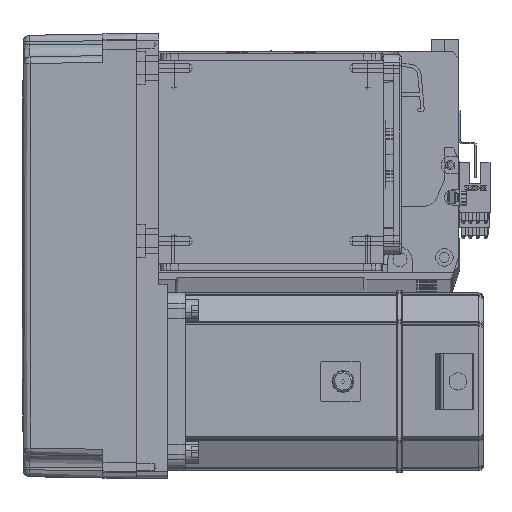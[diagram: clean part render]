
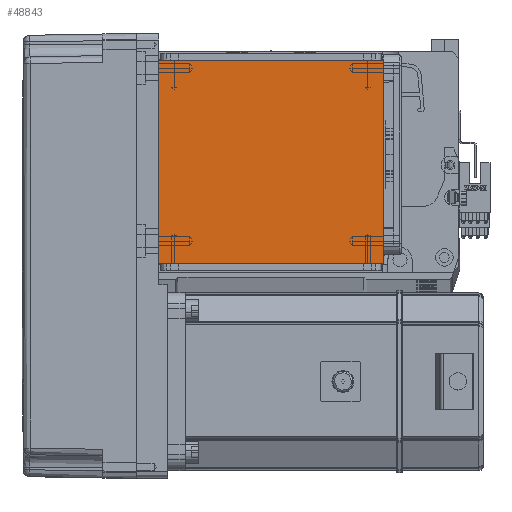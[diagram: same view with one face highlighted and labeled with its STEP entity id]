
A CAD part, top view. The second image highlights one B-rep face of the part: STEP entity #48843.
In plain terms, the highlighted planar face has unit normal (0, 0, 1).
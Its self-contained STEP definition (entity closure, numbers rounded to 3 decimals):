
#133 = ORIENTED_EDGE ( 'NONE', *, *, #40020, .T. ) ;
#472 = ORIENTED_EDGE ( 'NONE', *, *, #65938, .F. ) ;
#779 = LINE ( 'NONE', #33880, #69732 ) ;
#1205 = DIRECTION ( 'NONE',  ( 0., 0., 1. ) ) ;
#6599 = DIRECTION ( 'NONE',  ( 1., 0., 0. ) ) ;
#6777 = CARTESIAN_POINT ( 'NONE',  ( -50.5, 122., 115. ) ) ;
#7627 = VERTEX_POINT ( 'NONE', #53876 ) ;
#8388 = CARTESIAN_POINT ( 'NONE',  ( 50.5, 20., 115. ) ) ;
#9091 = ORIENTED_EDGE ( 'NONE', *, *, #65130, .F. ) ;
#10554 = CARTESIAN_POINT ( 'NONE',  ( -50.5, 20., 115. ) ) ;
#14868 = VECTOR ( 'NONE', #20159, 1000. ) ;
#20159 = DIRECTION ( 'NONE',  ( 1., 0., 0. ) ) ;
#20741 = VECTOR ( 'NONE', #51389, 1000. ) ;
#21105 = CARTESIAN_POINT ( 'NONE',  ( -70.004, 111.5, 115. ) ) ;
#22789 = PLANE ( 'NONE',  #31029 ) ;
#30082 = CARTESIAN_POINT ( 'NONE',  ( 50.5, 111.5, 115. ) ) ;
#31029 = AXIS2_PLACEMENT_3D ( 'NONE', #33787, #1205, #6599 ) ;
#33787 = CARTESIAN_POINT ( 'NONE',  ( 0., 0., 115. ) ) ;
#33880 = CARTESIAN_POINT ( 'NONE',  ( 50.5, 122., 115. ) ) ;
#35284 = LINE ( 'NONE', #40634, #20741 ) ;
#35737 = VERTEX_POINT ( 'NONE', #30082 ) ;
#40020 = EDGE_CURVE ( 'NONE', #7627, #53549, #55623, .T. ) ;
#40634 = CARTESIAN_POINT ( 'NONE',  ( -70.004, 20., 115. ) ) ;
#44860 = LINE ( 'NONE', #21105, #14868 ) ;
#44921 = DIRECTION ( 'NONE',  ( 0., 1., 0. ) ) ;
#45717 = VERTEX_POINT ( 'NONE', #8388 ) ;
#47987 = VECTOR ( 'NONE', #61365, 1000. ) ;
#48843 = ADVANCED_FACE ( 'NONE', ( #59350 ), #22789, .T. ) ;
#51389 = DIRECTION ( 'NONE',  ( -1., 0., 0. ) ) ;
#53549 = VERTEX_POINT ( 'NONE', #10554 ) ;
#53876 = CARTESIAN_POINT ( 'NONE',  ( -50.5, 111.5, 115. ) ) ;
#54563 = ORIENTED_EDGE ( 'NONE', *, *, #69682, .T. ) ;
#55623 = LINE ( 'NONE', #6777, #47987 ) ;
#59350 = FACE_OUTER_BOUND ( 'NONE', #66447, .T. ) ;
#61365 = DIRECTION ( 'NONE',  ( 0., -1., 0. ) ) ;
#65130 = EDGE_CURVE ( 'NONE', #7627, #35737, #44860, .T. ) ;
#65938 = EDGE_CURVE ( 'NONE', #45717, #53549, #35284, .T. ) ;
#66447 = EDGE_LOOP ( 'NONE', ( #9091, #133, #472, #54563 ) ) ;
#69682 = EDGE_CURVE ( 'NONE', #45717, #35737, #779, .T. ) ;
#69732 = VECTOR ( 'NONE', #44921, 1000. ) ;
